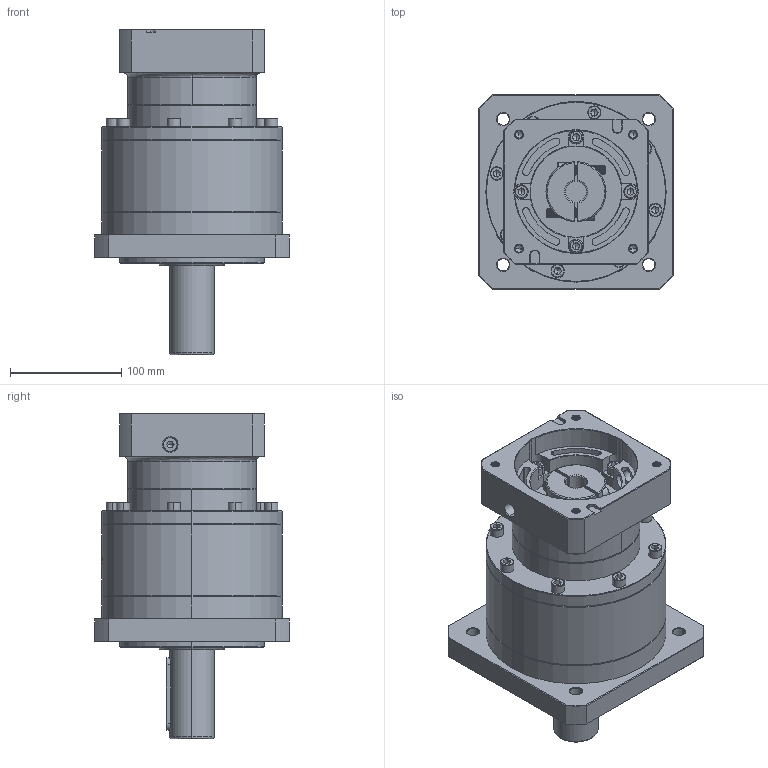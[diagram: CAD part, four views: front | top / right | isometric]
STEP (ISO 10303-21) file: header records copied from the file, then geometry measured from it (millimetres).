
FILE_DESCRIPTION (( 'STEP AP214' ), '1' );
FILE_NAME ('ZF160A-D40-L2-P2-19-110-145-M8.step', '2023-09-03T07:53:26', ( '' ), ( '' ), 'SwSTEP 2.0', 'SolidWorks 2016', '' );
FILE_SCHEMA (( 'AUTOMOTIVE_DESIGN' ));
Length unit declared in the file: millimetre
Products named in the file (1): ZF160A-D40-L2-P2-19-110-145-M8
Bounding box: 175 x 175 x 292.2 mm (x, y, z)
Volume: 3587191.8 mm3; surface area: 282336 mm2
Topology: 6 solids, 6 shells, 2483 faces, 6585 edges, 4223 vertices
Faces by surface type: plane 1145, cylinder 514, bspline 407, cone 360, torus 57
Entity records: 135270 total; most frequent: CARTESIAN_POINT 51564, ORIENTED_EDGE 13062, DIRECTION 9977, EDGE_CURVE 6531, VERTEX_POINT 4223, VECTOR 3455, LINE 3455, AXIS2_PLACEMENT_3D 3261
